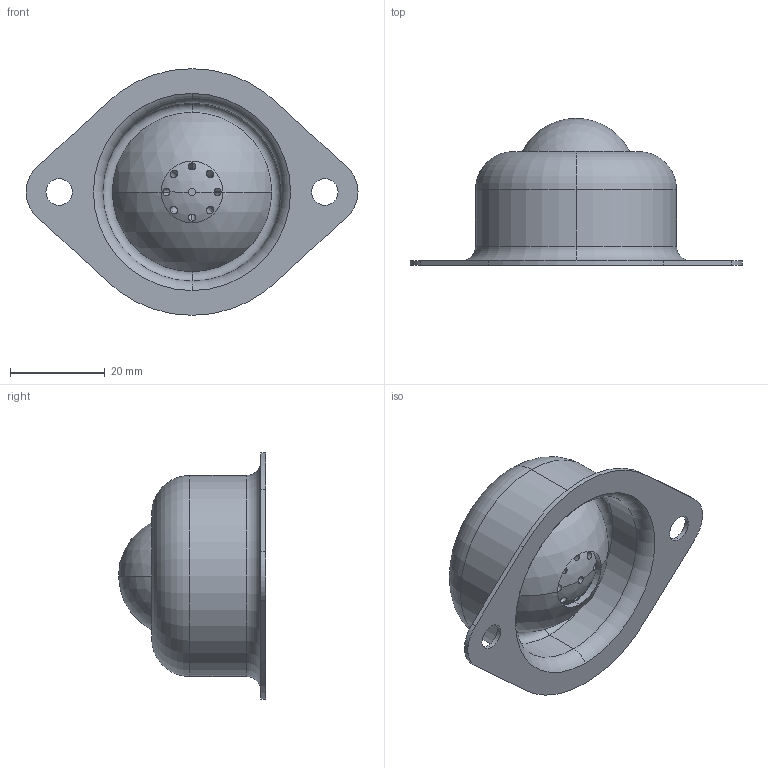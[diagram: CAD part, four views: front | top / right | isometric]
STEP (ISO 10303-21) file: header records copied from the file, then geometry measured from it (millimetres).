
FILE_DESCRIPTION (( 'STEP AP203' ), '1' );
FILE_NAME ('PV50H.STEP', '2016-01-26T04:08:46', ( '' ), ( '' ), 'SwSTEP 2.0', 'SolidWorks 2013', '' );
FILE_SCHEMA (( 'CONFIG_CONTROL_DESIGN' ));
Length unit declared in the file: millimetre
Products named in the file (1): PV50H
Bounding box: 70 x 31 x 52 mm (x, y, z)
Volume: 27198.8 mm3; surface area: 9447.1 mm2
Topology: 1 solids, 1 shells, 63 faces, 145 edges, 93 vertices
Faces by surface type: cylinder 33, plane 16, torus 8, sphere 6
Entity records: 2082 total; most frequent: CARTESIAN_POINT 516, DIRECTION 341, ORIENTED_EDGE 290, AXIS2_PLACEMENT_3D 148, EDGE_CURVE 145, VERTEX_POINT 93, CIRCLE 84, EDGE_LOOP 76
